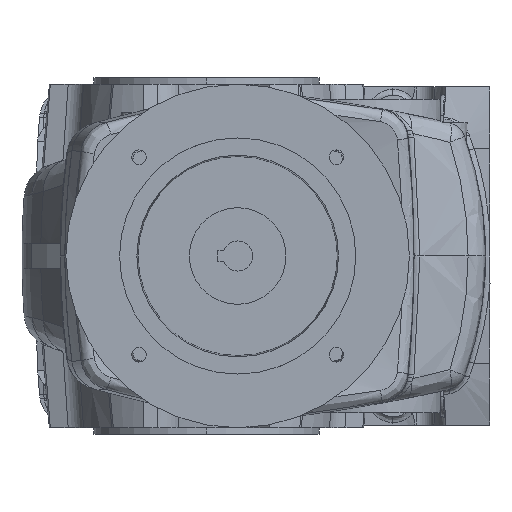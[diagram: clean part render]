
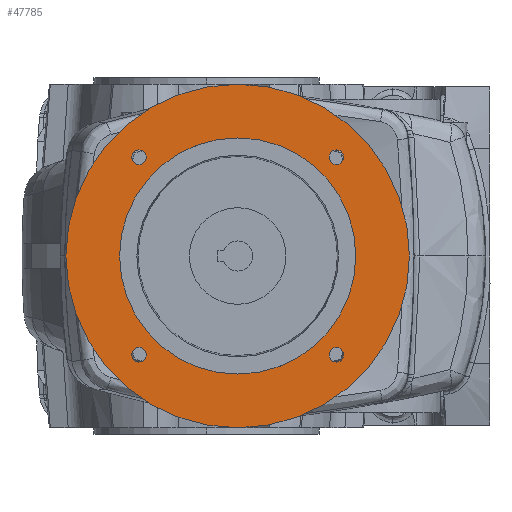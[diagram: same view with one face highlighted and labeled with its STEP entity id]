
A CAD part, left-side view. The second image highlights one B-rep face of the part: STEP entity #47785.
In plain terms, the highlighted planar face has unit normal (-1, 0, 0).
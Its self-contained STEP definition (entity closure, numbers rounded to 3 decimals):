
#47161=CARTESIAN_POINT('',(-137.5,55.538,-45.962));
#47162=DIRECTION('',(1.,0.,0.));
#47163=DIRECTION('',(0.,-1.,0.));
#47164=AXIS2_PLACEMENT_3D('',#47161,#47162,#47163);
#47166=CARTESIAN_POINT('',(-137.5,55.538,-45.962));
#47167=DIRECTION('',(1.,0.,0.));
#47168=DIRECTION('',(0.,1.,0.));
#47169=AXIS2_PLACEMENT_3D('',#47166,#47167,#47168);
#47171=CARTESIAN_POINT('',(-137.5,55.538,45.962));
#47172=DIRECTION('',(1.,0.,0.));
#47173=DIRECTION('',(0.,-1.,0.));
#47174=AXIS2_PLACEMENT_3D('',#47171,#47172,#47173);
#47176=CARTESIAN_POINT('',(-137.5,55.538,45.962));
#47177=DIRECTION('',(1.,0.,0.));
#47178=DIRECTION('',(0.,1.,0.));
#47179=AXIS2_PLACEMENT_3D('',#47176,#47177,#47178);
#47181=CARTESIAN_POINT('',(-137.5,147.462,-45.962));
#47182=DIRECTION('',(1.,0.,0.));
#47183=DIRECTION('',(0.,-1.,0.));
#47184=AXIS2_PLACEMENT_3D('',#47181,#47182,#47183);
#47186=CARTESIAN_POINT('',(-137.5,147.462,-45.962));
#47187=DIRECTION('',(1.,0.,0.));
#47188=DIRECTION('',(0.,1.,0.));
#47189=AXIS2_PLACEMENT_3D('',#47186,#47187,#47188);
#47191=CARTESIAN_POINT('',(-137.5,147.462,45.962));
#47192=DIRECTION('',(1.,0.,0.));
#47193=DIRECTION('',(0.,-1.,0.));
#47194=AXIS2_PLACEMENT_3D('',#47191,#47192,#47193);
#47196=CARTESIAN_POINT('',(-137.5,147.462,45.962));
#47197=DIRECTION('',(1.,0.,0.));
#47198=DIRECTION('',(0.,1.,0.));
#47199=AXIS2_PLACEMENT_3D('',#47196,#47197,#47198);
#47201=CARTESIAN_POINT('',(-137.5,101.5,0.));
#47202=DIRECTION('',(-1.,0.,0.));
#47203=DIRECTION('',(0.,0.,-1.));
#47204=AXIS2_PLACEMENT_3D('',#47201,#47202,#47203);
#47206=CARTESIAN_POINT('',(-137.5,101.5,0.));
#47207=DIRECTION('',(-1.,0.,0.));
#47208=DIRECTION('',(0.,0.,1.));
#47209=AXIS2_PLACEMENT_3D('',#47206,#47207,#47208);
#47211=CARTESIAN_POINT('',(-137.5,101.5,0.));
#47212=DIRECTION('',(1.,0.,0.));
#47213=DIRECTION('',(0.,0.,-1.));
#47214=AXIS2_PLACEMENT_3D('',#47211,#47212,#47213);
#47216=CARTESIAN_POINT('',(-137.5,101.5,0.));
#47217=DIRECTION('',(1.,0.,0.));
#47218=DIRECTION('',(0.,0.,1.));
#47219=AXIS2_PLACEMENT_3D('',#47216,#47217,#47218);
#47474=CARTESIAN_POINT('',(-137.5,101.5,79.99));
#47476=VERTEX_POINT('',#47474);
#47478=CARTESIAN_POINT('',(-137.5,101.5,-79.989));
#47479=VERTEX_POINT('',#47478);
#47486=CARTESIAN_POINT('',(-137.5,101.5,-54.99));
#47487=CARTESIAN_POINT('',(-137.5,101.5,54.99));
#47488=VERTEX_POINT('',#47486);
#47489=VERTEX_POINT('',#47487);
#47490=CARTESIAN_POINT('',(-137.5,144.062,-45.962));
#47491=CARTESIAN_POINT('',(-137.5,150.862,-45.962));
#47492=VERTEX_POINT('',#47490);
#47493=VERTEX_POINT('',#47491);
#47494=CARTESIAN_POINT('',(-137.5,52.138,-45.962));
#47495=CARTESIAN_POINT('',(-137.5,58.938,-45.962));
#47496=VERTEX_POINT('',#47494);
#47497=VERTEX_POINT('',#47495);
#47498=CARTESIAN_POINT('',(-137.5,52.138,45.962));
#47499=CARTESIAN_POINT('',(-137.5,58.938,45.962));
#47500=VERTEX_POINT('',#47498);
#47501=VERTEX_POINT('',#47499);
#47502=CARTESIAN_POINT('',(-137.5,144.062,45.962));
#47503=CARTESIAN_POINT('',(-137.5,150.862,45.962));
#47504=VERTEX_POINT('',#47502);
#47505=VERTEX_POINT('',#47503);
#47747=CARTESIAN_POINT('',(-137.5,101.5,0.));
#47748=DIRECTION('',(1.,0.,0.));
#47749=DIRECTION('',(0.,0.,-1.));
#47750=AXIS2_PLACEMENT_3D('',#47747,#47748,#47749);
#47751=PLANE('',#47750);
#47752=ORIENTED_EDGE('',*,*,#47726,.F.);
#47753=ORIENTED_EDGE('',*,*,#47741,.F.);
#47754=EDGE_LOOP('',(#47752,#47753));
#47755=FACE_OUTER_BOUND('',#47754,.F.);
#47756=ORIENTED_EDGE('',*,*,#47677,.F.);
#47758=ORIENTED_EDGE('',*,*,#47757,.F.);
#47759=EDGE_LOOP('',(#47756,#47758));
#47760=FACE_BOUND('',#47759,.F.);
#47762=ORIENTED_EDGE('',*,*,#47761,.F.);
#47764=ORIENTED_EDGE('',*,*,#47763,.F.);
#47765=EDGE_LOOP('',(#47762,#47764));
#47766=FACE_BOUND('',#47765,.F.);
#47768=ORIENTED_EDGE('',*,*,#47767,.F.);
#47770=ORIENTED_EDGE('',*,*,#47769,.F.);
#47771=EDGE_LOOP('',(#47768,#47770));
#47772=FACE_BOUND('',#47771,.F.);
#47774=ORIENTED_EDGE('',*,*,#47773,.F.);
#47776=ORIENTED_EDGE('',*,*,#47775,.F.);
#47777=EDGE_LOOP('',(#47774,#47776));
#47778=FACE_BOUND('',#47777,.F.);
#47780=ORIENTED_EDGE('',*,*,#47779,.F.);
#47782=ORIENTED_EDGE('',*,*,#47781,.F.);
#47783=EDGE_LOOP('',(#47780,#47782));
#47784=FACE_BOUND('',#47783,.F.);
#47785=ADVANCED_FACE('',(#47755,#47760,#47766,#47772,#47778,#47784),#47751,.F.);
#47165=CIRCLE('',#47164,3.4);
#47170=CIRCLE('',#47169,3.4);
#47175=CIRCLE('',#47174,3.4);
#47180=CIRCLE('',#47179,3.4);
#47185=CIRCLE('',#47184,3.4);
#47190=CIRCLE('',#47189,3.4);
#47195=CIRCLE('',#47194,3.4);
#47200=CIRCLE('',#47199,3.4);
#47205=CIRCLE('',#47204,79.989);
#47210=CIRCLE('',#47209,79.989);
#47215=CIRCLE('',#47214,54.99);
#47220=CIRCLE('',#47219,54.99);
#47677=EDGE_CURVE('',#47496,#47497,#47165,.T.);
#47726=EDGE_CURVE('',#47479,#47476,#47205,.T.);
#47741=EDGE_CURVE('',#47476,#47479,#47210,.T.);
#47757=EDGE_CURVE('',#47497,#47496,#47170,.T.);
#47761=EDGE_CURVE('',#47500,#47501,#47175,.T.);
#47763=EDGE_CURVE('',#47501,#47500,#47180,.T.);
#47767=EDGE_CURVE('',#47492,#47493,#47185,.T.);
#47769=EDGE_CURVE('',#47493,#47492,#47190,.T.);
#47773=EDGE_CURVE('',#47504,#47505,#47195,.T.);
#47775=EDGE_CURVE('',#47505,#47504,#47200,.T.);
#47779=EDGE_CURVE('',#47488,#47489,#47215,.T.);
#47781=EDGE_CURVE('',#47489,#47488,#47220,.T.);
